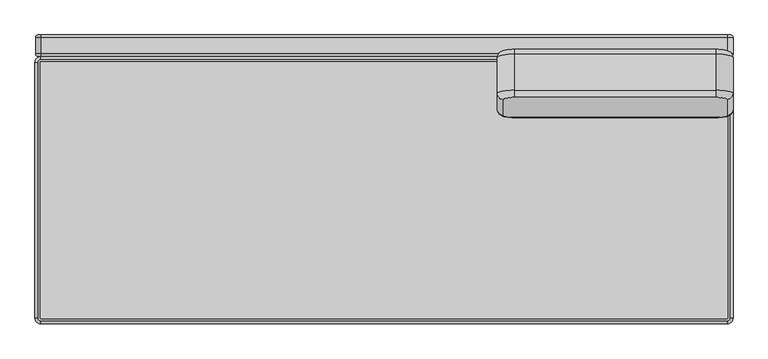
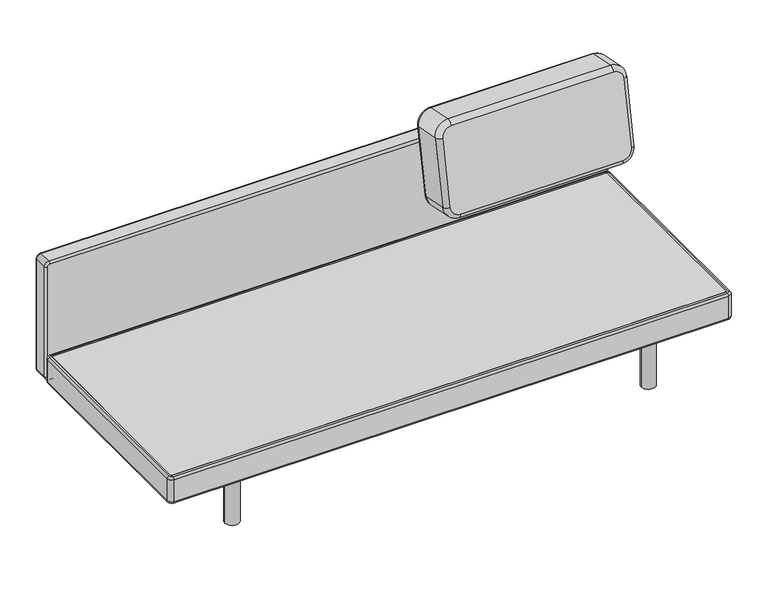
"""IFC4 building model written with IfcOpenShell, lengths in millimetres: furniture geometry, Fredericia - EJ220 Sofa 3 seaters 67 - 2233 : Fredericia - EJ220 Sofa 3 seaters 67 - 2233."""

from ifc_helpers import new_model, si_unit, point, frame, frame_2d, origin, origin_with_axes, place, context, project, spatial, circle_curve, ellipse_curve, trimmed, segment, composite_curve, outline, extrude, source, transform, mapped, element, save
from ifc_brep_helpers import plane_surface, cylinder_surface, revolved_surface, advanced_brep


def furniture_08a45eda(model_context):
    return source(origin(), model_context, "Body", "SolidModel", [
        advanced_brep(
        [(982.2998936, 619.8100699, 478.8361951), (982.2998936, 664.9135782, 710.8736296), (949.6320736, 671.1468921, 742.9412497), (374.3073614, 671.1468921, 742.9412497), (341.6395415, 664.9135782, 710.8736296), (341.6395415, 619.8100699, 478.8361951), (374.3073614, 613.576756, 446.7685751), (949.6320736, 613.576756, 446.7685751), (982.2998936, 802.1658592, 684.1944888), (982.2998936, 757.062351, 452.1570543), (949.6320736, 750.8290371, 420.0894343), (374.3073614, 750.8290371, 420.0894343), (341.6395415, 757.062351, 452.1570543), (341.6395415, 802.1658592, 684.1944888), (374.3073614, 808.3991731, 716.2621088), (949.6320736, 808.3991731, 716.2621088), (999.6320736, 636.819047, 475.5299849), (999.6320736, 740.0486118, 455.4641902), (999.6320736, 785.1521201, 687.5016246), (999.6320736, 681.9225552, 707.5674194), (949.6320736, 691.463005, 756.6487785), (949.6320736, 794.6925699, 736.5829838), (374.3073614, 794.6925699, 736.5829838), (374.3073614, 691.463005, 756.6487785), (324.3073614, 681.9225552, 707.5674194), (324.3073614, 785.1521201, 687.5016246), (324.3073614, 740.0486118, 455.4641902), (324.3073614, 636.819047, 475.5299849), (374.3073614, 627.2785972, 426.4486258), (374.3073614, 730.5081621, 406.382831), (949.6320736, 730.5081621, 406.382831), (949.6320736, 627.2785972, 426.4486258)],
        [
            (0, 1),
            (1, 2, circle_curve(frame((949.6320736, 664.9135782, 710.8736296), z_axis=(0.0, -0.9816271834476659, 0.1908089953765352), x_axis=(1.0, 0.0, 0.0)), 32.6678199)),
            (2, 3),
            (3, 4, circle_curve(frame((374.3073614, 664.9135782, 710.8736296), z_axis=(0.0, -0.9816271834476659, 0.1908089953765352), x_axis=(0.0, 0.1908089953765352, 0.9816271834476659)), 32.6678199)),
            (4, 5),
            (5, 6, circle_curve(frame((374.3073614, 619.8100699, 478.8361951), z_axis=(0.0, -0.9816271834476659, 0.1908089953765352), x_axis=(-1.0, 0.0, 0.0)), 32.6678199)),
            (6, 7),
            (7, 0, circle_curve(frame((949.6320736, 619.8100699, 478.8361951), z_axis=(0.0, -0.9816271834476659, 0.1908089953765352), x_axis=(0.0, -0.1908089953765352, -0.9816271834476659)), 32.6678199)),
            (8, 9),
            (9, 10, circle_curve(frame((949.6320736, 757.062351, 452.1570543), z_axis=(0.0, 0.9816271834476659, -0.1908089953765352), x_axis=(0.0, -0.1908089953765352, -0.9816271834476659)), 32.6678199)),
            (10, 11),
            (11, 12, circle_curve(frame((374.3073614, 757.062351, 452.1570543), z_axis=(0.0, 0.9816271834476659, -0.1908089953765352), x_axis=(-1.0, 0.0, 0.0)), 32.6678199)),
            (12, 13),
            (13, 14, circle_curve(frame((374.3073614, 802.1658592, 684.1944888), z_axis=(0.0, 0.9816271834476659, -0.1908089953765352), x_axis=(0.0, 0.1908089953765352, 0.9816271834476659)), 32.6678199)),
            (14, 15),
            (15, 8, circle_curve(frame((949.6320736, 802.1658592, 684.1944888), z_axis=(0.0, 0.9816271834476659, -0.1908089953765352), x_axis=(1.0, 0.0, 0.0)), 32.6678199)),
            (16, 17),
            (17, 18),
            (18, 19),
            (19, 16),
            (20, 21),
            (21, 22),
            (22, 23),
            (23, 20),
            (24, 25),
            (25, 26),
            (26, 27),
            (27, 24),
            (28, 29),
            (29, 30),
            (30, 31),
            (31, 28),
            (19, 1, circle_curve(frame((982.2998936, 681.9225552, 707.5674194), z_axis=(0.0, -0.1908089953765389, -0.9816271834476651), x_axis=(-1.0, 0.0, 0.0)), 17.3321801)),
            (0, 16, circle_curve(frame((982.2998936, 636.819047, 475.5299849), z_axis=(0.0, 0.1908089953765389, 0.9816271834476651), x_axis=(-1.0, 0.0, 0.0)), 17.3321801)),
            (17, 9, circle_curve(frame((982.2998936, 740.0486118, 455.4641902), z_axis=(0.0, 0.19080899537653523, 0.981627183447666), x_axis=(-1.0, 0.0, 0.0)), 17.3321801)),
            (8, 18, circle_curve(frame((982.2998936, 785.1521201, 687.5016246), z_axis=(0.0, -0.19080899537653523, -0.981627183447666), x_axis=(-1.0, 0.0, 0.0)), 17.3321801)),
            (23, 3, circle_curve(frame((374.3073614, 688.1558691, 739.6350394), z_axis=(1.0, 0.0, 0.0), x_axis=(0.0, -0.19080899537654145, -0.9816271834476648)), 17.3321801)),
            (2, 20, circle_curve(frame((949.6320736, 688.1558691, 739.6350394), z_axis=(-1.0, 0.0, 0.0), x_axis=(0.0, -0.19080899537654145, -0.9816271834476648)), 17.3321801)),
            (21, 15, circle_curve(frame((949.6320736, 791.385434, 719.5692447), z_axis=(-1.0, 0.0, 0.0), x_axis=(0.0, -0.19080899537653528, -0.9816271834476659)), 17.3321801)),
            (14, 22, circle_curve(frame((374.3073614, 791.385434, 719.5692447), z_axis=(1.0, 0.0, 0.0), x_axis=(0.0, -0.19080899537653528, -0.9816271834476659)), 17.3321801)),
            (27, 5, circle_curve(frame((341.6395415, 636.819047, 475.5299849), z_axis=(0.0, 0.19080899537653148, 0.9816271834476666), x_axis=(1.0, 0.0, 0.0)), 17.3321801)),
            (4, 24, circle_curve(frame((341.6395415, 681.9225552, 707.5674194), z_axis=(0.0, -0.19080899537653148, -0.9816271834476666), x_axis=(1.0, 0.0, 0.0)), 17.3321801)),
            (25, 13, circle_curve(frame((341.6395415, 785.1521201, 687.5016246), z_axis=(0.0, -0.1908089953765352, -0.9816271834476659), x_axis=(1.0, 0.0, 0.0)), 17.3321801)),
            (12, 26, circle_curve(frame((341.6395415, 740.0486118, 455.4641902), z_axis=(0.0, 0.1908089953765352, 0.9816271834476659), x_axis=(1.0, 0.0, 0.0)), 17.3321801)),
            (31, 7, circle_curve(frame((949.6320736, 630.585733, 443.4623649), z_axis=(-1.0, 0.0, 0.0), x_axis=(0.0, 0.19080899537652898, 0.9816271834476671)), 17.3321801)),
            (6, 28, circle_curve(frame((374.3073614, 630.585733, 443.4623649), z_axis=(1.0, 0.0, 0.0), x_axis=(0.0, 0.19080899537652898, 0.9816271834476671)), 17.3321801)),
            (29, 11, circle_curve(frame((374.3073614, 733.8152979, 423.3965701), z_axis=(1.0, 0.0, 0.0), x_axis=(0.0, 0.1908089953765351, 0.9816271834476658)), 17.3321801)),
            (10, 30, circle_curve(frame((949.6320736, 733.8152979, 423.3965701), z_axis=(-1.0, 0.0, 0.0), x_axis=(0.0, 0.1908089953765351, 0.9816271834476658)), 17.3321801)),
            (31, 16, circle_curve(frame((949.6320736, 636.819047, 475.5299849), z_axis=(0.0, -0.9816271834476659, 0.1908089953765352), x_axis=(0.0, -0.1908089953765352, -0.9816271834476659)), 50.0)),
            (30, 17, circle_curve(frame((949.6320736, 740.0486118, 455.4641902), z_axis=(0.0, -0.9816271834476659, 0.1908089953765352), x_axis=(0.0, -0.1908089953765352, -0.9816271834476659)), 50.0)),
            (19, 20, circle_curve(frame((949.6320736, 681.9225552, 707.5674194), z_axis=(0.0, -0.9816271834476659, 0.1908089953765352), x_axis=(1.0, 0.0, 0.0)), 50.0)),
            (18, 21, circle_curve(frame((949.6320736, 785.1521201, 687.5016246), z_axis=(0.0, -0.9816271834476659, 0.1908089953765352), x_axis=(1.0, 0.0, 0.0)), 50.0)),
            (23, 24, circle_curve(frame((374.3073614, 681.9225552, 707.5674194), z_axis=(0.0, -0.9816271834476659, 0.1908089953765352), x_axis=(0.0, 0.1908089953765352, 0.9816271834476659)), 50.0)),
            (22, 25, circle_curve(frame((374.3073614, 785.1521201, 687.5016246), z_axis=(0.0, -0.9816271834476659, 0.1908089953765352), x_axis=(0.0, 0.1908089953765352, 0.9816271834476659)), 50.0)),
            (27, 28, circle_curve(frame((374.3073614, 636.819047, 475.5299849), z_axis=(0.0, -0.9816271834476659, 0.1908089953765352), x_axis=(-1.0, 0.0, 0.0)), 50.0)),
            (26, 29, circle_curve(frame((374.3073614, 740.0486118, 455.4641902), z_axis=(0.0, -0.9816271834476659, 0.1908089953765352), x_axis=(-1.0, 0.0, 0.0)), 50.0)),
        ],
        [
            plane_surface(frame((919.6320736, 664.9135782, 710.8736296), z_axis=(0.0, -0.9816271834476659, 0.19080899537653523), x_axis=(0.0, -0.19080899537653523, -0.9816271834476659))),
            plane_surface(frame((919.6320736, 802.1658592, 684.1944888), z_axis=(0.0, 0.9816271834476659, -0.19080899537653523), x_axis=(0.0, 0.19080899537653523, 0.9816271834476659))),
            plane_surface(frame((999.6320736, 740.0486118, 455.4641902), z_axis=(1.0, 0.0, 0.0), x_axis=(0.0, 0.1908089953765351, 0.9816271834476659))),
            plane_surface(frame((949.6320736, 794.6925699, 736.5829838), z_axis=(0.0, 0.1908089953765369, 0.9816271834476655), x_axis=(-1.0, 0.0, 0.0))),
            plane_surface(frame((324.3073614, 785.1521201, 687.5016246), z_axis=(-1.0000000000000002, 0.0, 0.0), x_axis=(0.0, -0.19080899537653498, -0.981627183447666))),
            plane_surface(frame((374.3073614, 730.5081621, 406.382831), z_axis=(0.0, -0.1908089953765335, -0.9816271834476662), x_axis=(1.0, 0.0, 0.0))),
            cylinder_surface(frame((982.2998936, 636.819047, 475.5299849), z_axis=(0.0, -0.1908089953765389, -0.9816271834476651), x_axis=(-1.0, 0.0, 0.0)), 17.3321801),
            cylinder_surface(frame((982.2998936, 740.0486118, 455.4641902), z_axis=(0.0, -0.19080899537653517, -0.9816271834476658), x_axis=(-1.0, 0.0, 0.0)), 17.3321801),
            cylinder_surface(frame((949.6320736, 688.1558691, 739.6350394), z_axis=(1.0000000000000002, 0.0, 0.0), x_axis=(0.0, -0.19080899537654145, -0.9816271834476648)), 17.3321801),
            cylinder_surface(frame((949.6320736, 791.385434, 719.5692447), z_axis=(1.0000000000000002, 0.0, 0.0), x_axis=(0.0, -0.19080899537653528, -0.9816271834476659)), 17.3321801),
            cylinder_surface(frame((341.6395415, 681.9225552, 707.5674194), z_axis=(0.0, 0.19080899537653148, 0.9816271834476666), x_axis=(1.0, 0.0, 0.0)), 17.3321801),
            cylinder_surface(frame((341.6395415, 785.1521201, 687.5016246), z_axis=(0.0, 0.1908089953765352, 0.9816271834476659), x_axis=(1.0, 0.0, 0.0)), 17.3321801),
            cylinder_surface(frame((374.3073614, 630.585733, 443.4623649), z_axis=(-1.0, 0.0, 0.0), x_axis=(0.0, 0.19080899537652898, 0.9816271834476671)), 17.3321801),
            cylinder_surface(frame((374.3073614, 733.8152979, 423.3965701), z_axis=(-1.0, 0.0, 0.0), x_axis=(0.0, 0.1908089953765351, 0.9816271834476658)), 17.3321801),
            revolved_surface(trimmed(ellipse_curve(frame((949.6320736, 630.585733, 443.4623649), z_axis=(-1.0000000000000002, 0.0, 0.0), x_axis=(0.0, 0.19080899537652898, 0.9816271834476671)), 17.3321801, 17.3321801), [point((949.6320736, 627.2785972, 426.4486258))], [point((949.6320736, 613.5719939, 446.7695007))], True, "CARTESIAN"), (949.6320736, 801.1332803, 443.5905334), (0.0, -0.9816271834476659, 0.1908089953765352)),
            cylinder_surface(frame((949.6320736, 801.1332803, 443.5905334), z_axis=(0.0, -0.9816271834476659, 0.1908089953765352), x_axis=(0.0, -0.1908089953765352, -0.9816271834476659)), 50.0),
            revolved_surface(trimmed(ellipse_curve(frame((949.6320736, 733.8152979, 423.3965701), z_axis=(-1.0000000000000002, 0.0, 0.0), x_axis=(0.0, 0.19080899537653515, 0.9816271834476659)), 17.3321801, 17.3321801), [point((949.6320736, 750.8290371, 420.0894343))], [point((949.6320736, 730.5081621, 406.382831))], True, "CARTESIAN"), (949.6320736, 801.1332803, 443.5905334), (0.0, -0.9816271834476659, 0.1908089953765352)),
            revolved_surface(trimmed(ellipse_curve(frame((982.2998936, 681.9225552, 707.5674194), z_axis=(0.0, -0.19080899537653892, -0.9816271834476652), x_axis=(-1.0, 0.0, 0.0)), 17.3321801, 17.3321801), [point((999.6320736, 681.9225552, 707.5674194))], [point((982.2998936, 664.9088161, 710.8745552))], True, "CARTESIAN"), (949.6320736, 846.2367886, 675.6279679), (0.0, -0.9816271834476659, 0.1908089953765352)),
            cylinder_surface(frame((949.6320736, 846.2367886, 675.6279679), z_axis=(0.0, -0.9816271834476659, 0.1908089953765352), x_axis=(1.0, 0.0, 0.0)), 50.0),
            revolved_surface(trimmed(ellipse_curve(frame((982.2998936, 785.1521201, 687.5016246), z_axis=(0.0, -0.1908089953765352, -0.9816271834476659), x_axis=(-1.0, 0.0, 0.0)), 17.3321801, 17.3321801), [point((982.2998936, 802.1658592, 684.1944888))], [point((999.6320736, 785.1521201, 687.5016246))], True, "CARTESIAN"), (949.6320736, 846.2367886, 675.6279679), (0.0, -0.9816271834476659, 0.1908089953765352)),
            revolved_surface(trimmed(ellipse_curve(frame((374.3073614, 688.1558691, 739.6350394), z_axis=(1.0000000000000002, 0.0, 0.0), x_axis=(0.0, -0.19080899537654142, -0.9816271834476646)), 17.3321801, 17.3321801), [point((374.3073614, 691.463005, 756.6487785))], [point((374.3073614, 671.14213, 742.9421753))], True, "CARTESIAN"), (374.3073614, 846.2367886, 675.6279679), (0.0, -0.9816271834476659, 0.1908089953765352)),
            cylinder_surface(frame((374.3073614, 846.2367886, 675.6279679), z_axis=(0.0, -0.9816271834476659, 0.1908089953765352), x_axis=(0.0, 0.1908089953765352, 0.9816271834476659)), 50.0),
            revolved_surface(trimmed(ellipse_curve(frame((374.3073614, 791.385434, 719.5692447), z_axis=(1.0000000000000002, 0.0, 0.0), x_axis=(0.0, -0.19080899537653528, -0.9816271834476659)), 17.3321801, 17.3321801), [point((374.3073614, 808.3991731, 716.2621088))], [point((374.3073614, 794.6925699, 736.5829838))], True, "CARTESIAN"), (374.3073614, 846.2367886, 675.6279679), (0.0, -0.9816271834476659, 0.1908089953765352)),
            revolved_surface(trimmed(ellipse_curve(frame((341.6395415, 636.819047, 475.5299849), z_axis=(0.0, 0.19080899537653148, 0.9816271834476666), x_axis=(1.0, 0.0, 0.0)), 17.3321801, 17.3321801), [point((324.3073614, 636.819047, 475.5299849))], [point((341.6395415, 619.8053078, 478.8371208))], True, "CARTESIAN"), (374.3073614, 801.1332803, 443.5905334), (0.0, -0.9816271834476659, 0.1908089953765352)),
            cylinder_surface(frame((374.3073614, 801.1332803, 443.5905334), z_axis=(0.0, -0.9816271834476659, 0.1908089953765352), x_axis=(-1.0, 0.0, 0.0)), 50.0),
            revolved_surface(trimmed(ellipse_curve(frame((341.6395415, 740.0486118, 455.4641902), z_axis=(0.0, 0.1908089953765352, 0.9816271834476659), x_axis=(1.0, 0.0, 0.0)), 17.3321801, 17.3321801), [point((341.6395415, 757.062351, 452.1570543))], [point((324.3073614, 740.0486118, 455.4641902))], True, "CARTESIAN"), (374.3073614, 801.1332803, 443.5905334), (0.0, -0.9816271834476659, 0.1908089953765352)),
        ],
        [
            (0, [[1, 2, 3, 4, 5, 6, 7, 8]]),
            (1, [[9, 10, 11, 12, 13, 14, 15, 16]]),
            (2, [[17, 18, 19, 20]]),
            (3, [[21, 22, 23, 24]]),
            (4, [[25, 26, 27, 28]]),
            (5, [[29, 30, 31, 32]]),
            (6, [[-20, 33, -1, 34]]),
            (7, [[-18, 35, -9, 36]]),
            (8, [[-24, 37, -3, 38]]),
            (9, [[-22, 39, -15, 40]]),
            (10, [[-28, 41, -5, 42]]),
            (11, [[-26, 43, -13, 44]]),
            (12, [[-32, 45, -7, 46]]),
            (13, [[-30, 47, -11, 48]]),
            (14, [[-34, -8, -45, 49]]),
            (15, [[-17, -49, -31, 50]]),
            (16, [[-35, -50, -48, -10]]),
            (17, [[-33, 51, -38, -2]]),
            (18, [[-19, 52, -21, -51]]),
            (19, [[-36, -16, -39, -52]]),
            (20, [[-37, 53, -42, -4]]),
            (21, [[-23, 54, -25, -53]]),
            (22, [[-40, -14, -43, -54]]),
            (23, [[-41, 55, -46, -6]]),
            (24, [[-27, 56, -29, -55]]),
            (25, [[-44, -12, -47, -56]]),
        ],
    ),
        extrude(outline(composite_curve([segment(trimmed(circle_curve(frame_2d((-737.400766, 93.2307907)), 25.0), [point((-712.400766, 93.2307907))], [point((-762.400766, 93.2307907))], False, "CARTESIAN"), True, "CONTINUOUS"), segment(trimmed(circle_curve(frame_2d((-737.400766, 93.2307907)), 25.0), [point((-762.400766, 93.2307907))], [point((-712.400766, 93.2307907))], False, "CARTESIAN"), True, "CONTINUOUS")], self_intersect=False)), origin_with_axes(), (0.0, 0.0, 1.0), 192.8),
        extrude(outline(composite_curve([segment(trimmed(circle_curve(frame_2d((-734.6355201, 735.5757348)), 25.0), [point((-709.6355201, 735.5757348))], [point((-759.6355201, 735.5757348))], False, "CARTESIAN"), True, "CONTINUOUS"), segment(trimmed(circle_curve(frame_2d((-734.6355201, 735.5757348)), 25.0), [point((-759.6355201, 735.5757348))], [point((-709.6355201, 735.5757348))], False, "CARTESIAN"), True, "CONTINUOUS")], self_intersect=False)), origin_with_axes(), (0.0, 0.0, 1.0), 192.8),
        extrude(outline(composite_curve([segment(trimmed(circle_curve(frame_2d((735.108025, 735.5757348)), 25.0), [point((760.108025, 735.5757348))], [point((710.108025, 735.5757348))], False, "CARTESIAN"), True, "CONTINUOUS"), segment(trimmed(circle_curve(frame_2d((735.108025, 735.5757348)), 25.0), [point((710.108025, 735.5757348))], [point((760.108025, 735.5757348))], False, "CARTESIAN"), True, "CONTINUOUS")], self_intersect=False)), origin_with_axes(), (0.0, 0.0, 1.0), 192.8),
        extrude(outline(composite_curve([segment(trimmed(circle_curve(frame_2d((735.108025, 86.3098054)), 25.0), [point((760.108025, 86.3098054))], [point((710.108025, 86.3098054))], False, "CARTESIAN"), True, "CONTINUOUS"), segment(trimmed(circle_curve(frame_2d((735.108025, 86.3098054)), 25.0), [point((710.108025, 86.3098054))], [point((760.108025, 86.3098054))], False, "CARTESIAN"), True, "CONTINUOUS")], self_intersect=False)), origin_with_axes(), (0.0, 0.0, 1.0), 192.8),
        advanced_brep(
        [(-990.361679, 788.5182574, 617.6458587), (-990.361679, 788.5182574, 207.2714708), (-980.761679, 788.5182574, 197.6714708), (982.5320736, 788.5182574, 197.6714708), (992.1320736, 788.5182574, 207.2714708), (992.1320736, 788.5182574, 617.6458587), (982.5320736, 788.5182574, 627.2458587), (-980.761679, 788.5182574, 627.2458587), (-990.361679, 850.0101989, 207.2714708), (-990.361679, 850.0101989, 617.6458587), (-980.761679, 850.0101989, 627.2458587), (982.5320736, 850.0101989, 627.2458587), (992.1320736, 850.0101989, 617.6458587), (992.1320736, 850.0101989, 207.2714708), (982.5320736, 850.0101989, 197.6714708), (-980.761679, 850.0101989, 197.6714708), (-997.861679, 796.0182574, 207.2714708), (-997.861679, 796.0182574, 617.6458587), (-997.861679, 842.5101989, 617.6458587), (-997.861679, 842.5101989, 207.2714708), (-980.761679, 796.0182574, 634.7458587), (982.5320736, 796.0182574, 634.7458587), (982.5320736, 842.5101989, 634.7458587), (-980.761679, 842.5101989, 634.7458587), (999.6320736, 796.0182574, 617.6458587), (999.6320736, 796.0182574, 207.2714708), (999.6320736, 842.5101989, 207.2714708), (999.6320736, 842.5101989, 617.6458587), (982.5320736, 796.0182574, 190.1714708), (-980.761679, 796.0182574, 190.1714708), (-980.761679, 842.5101989, 190.1714708), (982.5320736, 842.5101989, 190.1714708)],
        [
            (0, 1),
            (1, 2, circle_curve(frame((-980.761679, 788.5182574, 207.2714708), z_axis=(0.0, -1.0, 0.0), x_axis=(0.0, 0.0, -1.0)), 9.6)),
            (2, 3),
            (3, 4, circle_curve(frame((982.5320736, 788.5182574, 207.2714708), z_axis=(0.0, -1.0, 0.0), x_axis=(1.0, 0.0, 0.0)), 9.6)),
            (4, 5),
            (5, 6, circle_curve(frame((982.5320736, 788.5182574, 617.6458587), z_axis=(0.0, -1.0, 0.0), x_axis=(0.0, 0.0, 1.0)), 9.6)),
            (6, 7),
            (7, 0, circle_curve(frame((-980.761679, 788.5182574, 617.6458587), z_axis=(0.0, -1.0, 0.0), x_axis=(-1.0, 0.0, 0.0)), 9.6)),
            (8, 9),
            (9, 10, circle_curve(frame((-980.761679, 850.0101989, 617.6458587), z_axis=(0.0, 1.0, 0.0), x_axis=(-1.0, 0.0, 0.0)), 9.6)),
            (10, 11),
            (11, 12, circle_curve(frame((982.5320736, 850.0101989, 617.6458587), z_axis=(0.0, 1.0, 0.0), x_axis=(0.0, 0.0, 1.0)), 9.6)),
            (12, 13),
            (13, 14, circle_curve(frame((982.5320736, 850.0101989, 207.2714708), z_axis=(0.0, 1.0, 0.0), x_axis=(1.0, 0.0, 0.0)), 9.6)),
            (14, 15),
            (15, 8, circle_curve(frame((-980.761679, 850.0101989, 207.2714708), z_axis=(0.0, 1.0, 0.0), x_axis=(0.0, 0.0, -1.0)), 9.6)),
            (16, 1, circle_curve(frame((-990.361679, 796.0182574, 207.2714708), z_axis=(0.0, 0.0, 1.0), x_axis=(1.0, 0.0, 0.0)), 7.5)),
            (0, 17, circle_curve(frame((-990.361679, 796.0182574, 617.6458587), z_axis=(0.0, 0.0, -1.0), x_axis=(1.0, 0.0, 0.0)), 7.5)),
            (17, 16),
            (17, 18),
            (18, 19),
            (19, 16),
            (18, 9, circle_curve(frame((-990.361679, 842.5101989, 617.6458587), z_axis=(0.0, 0.0, -1.0), x_axis=(1.0, 0.0, 0.0)), 7.5)),
            (8, 19, circle_curve(frame((-990.361679, 842.5101989, 207.2714708), z_axis=(0.0, 0.0, 1.0), x_axis=(1.0, 0.0, 0.0)), 7.5)),
            (20, 7, circle_curve(frame((-980.761679, 796.0182574, 627.2458587), z_axis=(1.0, 0.0, 0.0), x_axis=(0.0, 0.0, -1.0)), 7.5)),
            (6, 21, circle_curve(frame((982.5320736, 796.0182574, 627.2458587), z_axis=(-1.0, 0.0, 0.0), x_axis=(0.0, 0.0, -1.0)), 7.5)),
            (21, 20),
            (21, 22),
            (22, 23),
            (23, 20),
            (22, 11, circle_curve(frame((982.5320736, 842.5101989, 627.2458587), z_axis=(-1.0, 0.0, 0.0), x_axis=(0.0, 0.0, -1.0)), 7.5)),
            (10, 23, circle_curve(frame((-980.761679, 842.5101989, 627.2458587), z_axis=(1.0, 0.0, 0.0), x_axis=(0.0, 0.0, -1.0)), 7.5)),
            (24, 5, circle_curve(frame((992.1320736, 796.0182574, 617.6458587), z_axis=(0.0, 0.0, -1.0), x_axis=(-1.0, 0.0, 0.0)), 7.5)),
            (4, 25, circle_curve(frame((992.1320736, 796.0182574, 207.2714708), z_axis=(0.0, 0.0, 1.0), x_axis=(-1.0, 0.0, 0.0)), 7.5)),
            (25, 24),
            (25, 26),
            (26, 27),
            (27, 24),
            (26, 13, circle_curve(frame((992.1320736, 842.5101989, 207.2714708), z_axis=(0.0, 0.0, 1.0), x_axis=(-1.0, 0.0, 0.0)), 7.5)),
            (12, 27, circle_curve(frame((992.1320736, 842.5101989, 617.6458587), z_axis=(0.0, 0.0, -1.0), x_axis=(-1.0, 0.0, 0.0)), 7.5)),
            (28, 3, circle_curve(frame((982.5320736, 796.0182574, 197.6714708), z_axis=(-1.0, 0.0, 0.0), x_axis=(0.0, 0.0, 1.0)), 7.5)),
            (2, 29, circle_curve(frame((-980.761679, 796.0182574, 197.6714708), z_axis=(1.0, 0.0, 0.0), x_axis=(0.0, 0.0, 1.0)), 7.5)),
            (29, 28),
            (29, 30),
            (30, 31),
            (31, 28),
            (30, 15, circle_curve(frame((-980.761679, 842.5101989, 197.6714708), z_axis=(1.0, 0.0, 0.0), x_axis=(0.0, 0.0, 1.0)), 7.5)),
            (14, 31, circle_curve(frame((982.5320736, 842.5101989, 197.6714708), z_axis=(-1.0, 0.0, 0.0), x_axis=(0.0, 0.0, 1.0)), 7.5)),
            (16, 29, circle_curve(frame((-980.761679, 796.0182574, 207.2714708), z_axis=(0.0, -1.0, 0.0), x_axis=(0.0, 0.0, -1.0)), 17.1)),
            (19, 30, circle_curve(frame((-980.761679, 842.5101989, 207.2714708), z_axis=(0.0, -1.0, 0.0), x_axis=(0.0, 0.0, -1.0)), 17.1)),
            (20, 17, circle_curve(frame((-980.761679, 796.0182574, 617.6458587), z_axis=(0.0, -1.0, 0.0), x_axis=(-1.0, 0.0, 0.0)), 17.1)),
            (23, 18, circle_curve(frame((-980.761679, 842.5101989, 617.6458587), z_axis=(0.0, -1.0, 0.0), x_axis=(-1.0, 0.0, 0.0)), 17.1)),
            (24, 21, circle_curve(frame((982.5320736, 796.0182574, 617.6458587), z_axis=(0.0, -1.0, 0.0), x_axis=(0.0, 0.0, 1.0)), 17.1)),
            (27, 22, circle_curve(frame((982.5320736, 842.5101989, 617.6458587), z_axis=(0.0, -1.0, 0.0), x_axis=(0.0, 0.0, 1.0)), 17.1)),
            (28, 25, circle_curve(frame((982.5320736, 796.0182574, 207.2714708), z_axis=(0.0, -1.0, 0.0), x_axis=(1.0, 0.0, 0.0)), 17.1)),
            (31, 26, circle_curve(frame((982.5320736, 842.5101989, 207.2714708), z_axis=(0.0, -1.0, 0.0), x_axis=(1.0, 0.0, 0.0)), 17.1)),
        ],
        [
            plane_surface(frame((401.3694773, 788.5182574, 622.3295429), z_axis=(0.0, -1.0, 0.0), x_axis=(-1.0, 0.0, 0.0))),
            plane_surface(frame((401.3694773, 850.0101989, 622.3295429), z_axis=(0.0, 1.0, 0.0), x_axis=(1.0, 0.0, 0.0))),
            cylinder_surface(frame((-990.361679, 796.0182574, 207.2714708), z_axis=(0.0, 0.0, -1.0), x_axis=(1.0, 0.0, 0.0)), 7.5),
            plane_surface(frame((-997.861679, 796.0182574, 207.2714708), z_axis=(-1.0, 0.0, 0.0), x_axis=(0.0, 0.0, 1.0))),
            cylinder_surface(frame((-990.361679, 842.5101989, 207.2714708), z_axis=(0.0, 0.0, -1.0), x_axis=(1.0, 0.0, 0.0)), 7.5),
            cylinder_surface(frame((-980.761679, 796.0182574, 627.2458587), z_axis=(-1.0, 0.0, 0.0), x_axis=(0.0, 0.0, -1.0)), 7.5),
            plane_surface(frame((-980.761679, 796.0182574, 634.7458587), z_axis=(0.0, 0.0, 1.0), x_axis=(1.0, 0.0, 0.0))),
            cylinder_surface(frame((-980.761679, 842.5101989, 627.2458587), z_axis=(-1.0, 0.0, 0.0), x_axis=(0.0, 0.0, -1.0)), 7.5),
            cylinder_surface(frame((992.1320736, 796.0182574, 617.6458587), z_axis=(0.0, 0.0, 1.0), x_axis=(-1.0, 0.0, 0.0)), 7.5),
            plane_surface(frame((999.6320736, 796.0182574, 617.6458587), z_axis=(1.0, 0.0, 0.0), x_axis=(0.0, 0.0, -1.0))),
            cylinder_surface(frame((992.1320736, 842.5101989, 617.6458587), z_axis=(0.0, 0.0, 1.0), x_axis=(-1.0, 0.0, 0.0)), 7.5),
            cylinder_surface(frame((982.5320736, 796.0182574, 197.6714708), z_axis=(1.0, 0.0, 0.0), x_axis=(0.0, 0.0, 1.0)), 7.5),
            plane_surface(frame((982.5320736, 796.0182574, 190.1714708), z_axis=(0.0, 0.0, -1.0), x_axis=(-1.0, 0.0, 0.0))),
            cylinder_surface(frame((982.5320736, 842.5101989, 197.6714708), z_axis=(1.0, 0.0, 0.0), x_axis=(0.0, 0.0, 1.0)), 7.5),
            revolved_surface(trimmed(ellipse_curve(frame((-980.761679, 796.0182574, 197.6714708), z_axis=(1.0, 0.0, 0.0), x_axis=(0.0, 0.0, 1.0)), 7.5, 7.5), [point((-980.761679, 788.5182574, 197.6714708))], [point((-980.761679, 796.0182574, 190.1714708))], True, "CARTESIAN"), (-980.761679, 850.0101989, 207.2714708), (0.0, 1.0, 0.0)),
            cylinder_surface(frame((-980.761679, 850.0101989, 207.2714708), z_axis=(0.0, 1.0, 0.0), x_axis=(0.0, 0.0, -1.0)), 17.1),
            revolved_surface(trimmed(ellipse_curve(frame((-980.761679, 842.5101989, 197.6714708), z_axis=(1.0, 0.0, 0.0), x_axis=(0.0, 0.0, 1.0)), 7.5, 7.5), [point((-980.761679, 842.5101989, 190.1714708))], [point((-980.761679, 850.0101989, 197.6714708))], True, "CARTESIAN"), (-980.761679, 850.0101989, 207.2714708), (0.0, 1.0, 0.0)),
            revolved_surface(trimmed(ellipse_curve(frame((-990.361679, 796.0182574, 617.6458587), z_axis=(0.0, 0.0, -1.0), x_axis=(1.0, 0.0, 0.0)), 7.5, 7.5), [point((-990.361679, 788.5182574, 617.6458587))], [point((-997.861679, 796.0182574, 617.6458587))], True, "CARTESIAN"), (-980.761679, 850.0101989, 617.6458587), (0.0, 1.0, 0.0)),
            cylinder_surface(frame((-980.761679, 850.0101989, 617.6458587), z_axis=(0.0, 1.0, 0.0), x_axis=(-1.0, 0.0, 0.0)), 17.1),
            revolved_surface(trimmed(ellipse_curve(frame((-990.361679, 842.5101989, 617.6458587), z_axis=(0.0, 0.0, -1.0), x_axis=(1.0, 0.0, 0.0)), 7.5, 7.5), [point((-997.861679, 842.5101989, 617.6458587))], [point((-990.361679, 850.0101989, 617.6458587))], True, "CARTESIAN"), (-980.761679, 850.0101989, 617.6458587), (0.0, 1.0, 0.0)),
            revolved_surface(trimmed(ellipse_curve(frame((982.5320736, 796.0182574, 627.2458587), z_axis=(-1.0, 0.0, 0.0), x_axis=(0.0, 0.0, -1.0)), 7.5, 7.5), [point((982.5320736, 788.5182574, 627.2458587))], [point((982.5320736, 796.0182574, 634.7458587))], True, "CARTESIAN"), (982.5320736, 850.0101989, 617.6458587), (0.0, 1.0, 0.0)),
            cylinder_surface(frame((982.5320736, 850.0101989, 617.6458587), z_axis=(0.0, 1.0, 0.0), x_axis=(0.0, 0.0, 1.0)), 17.1),
            revolved_surface(trimmed(ellipse_curve(frame((982.5320736, 842.5101989, 627.2458587), z_axis=(-1.0, 0.0, 0.0), x_axis=(0.0, 0.0, -1.0)), 7.5, 7.5), [point((982.5320736, 842.5101989, 634.7458587))], [point((982.5320736, 850.0101989, 627.2458587))], True, "CARTESIAN"), (982.5320736, 850.0101989, 617.6458587), (0.0, 1.0, 0.0)),
            revolved_surface(trimmed(ellipse_curve(frame((992.1320736, 796.0182574, 207.2714708), z_axis=(0.0, 0.0, 1.0), x_axis=(-1.0, 0.0, 0.0)), 7.5, 7.5), [point((992.1320736, 788.5182574, 207.2714708))], [point((999.6320736, 796.0182574, 207.2714708))], True, "CARTESIAN"), (982.5320736, 850.0101989, 207.2714708), (0.0, 1.0, 0.0)),
            cylinder_surface(frame((982.5320736, 850.0101989, 207.2714708), z_axis=(0.0, 1.0, 0.0), x_axis=(1.0, 0.0, 0.0)), 17.1),
            revolved_surface(trimmed(ellipse_curve(frame((992.1320736, 842.5101989, 207.2714708), z_axis=(0.0, 0.0, 1.0), x_axis=(-1.0, 0.0, 0.0)), 7.5, 7.5), [point((999.6320736, 842.5101989, 207.2714708))], [point((992.1320736, 850.0101989, 207.2714708))], True, "CARTESIAN"), (982.5320736, 850.0101989, 207.2714708), (0.0, 1.0, 0.0)),
        ],
        [
            (0, [[1, 2, 3, 4, 5, 6, 7, 8]]),
            (1, [[9, 10, 11, 12, 13, 14, 15, 16]]),
            (2, [[17, -1, 18, 19]]),
            (3, [[-19, 20, 21, 22]]),
            (4, [[-21, 23, -9, 24]]),
            (5, [[25, -7, 26, 27]]),
            (6, [[-27, 28, 29, 30]]),
            (7, [[-29, 31, -11, 32]]),
            (8, [[33, -5, 34, 35]]),
            (9, [[-35, 36, 37, 38]]),
            (10, [[-37, 39, -13, 40]]),
            (11, [[41, -3, 42, 43]]),
            (12, [[-43, 44, 45, 46]]),
            (13, [[-45, 47, -15, 48]]),
            (14, [[-17, 49, -42, -2]]),
            (15, [[-22, 50, -44, -49]]),
            (16, [[-24, -16, -47, -50]]),
            (17, [[-18, -8, -25, 51]]),
            (18, [[-20, -51, -30, 52]]),
            (19, [[-23, -52, -32, -10]]),
            (20, [[-26, -6, -33, 53]]),
            (21, [[-28, -53, -38, 54]]),
            (22, [[-31, -54, -40, -12]]),
            (23, [[-34, -4, -41, 55]]),
            (24, [[-36, -55, -46, 56]]),
            (25, [[-39, -56, -48, -14]]),
        ],
    ),
        advanced_brep(
        [(-992.1320736, 39.8, 192.7880862), (-992.1320736, 770.9641303, 192.7880862), (-982.5320736, 780.5641303, 192.7880862), (982.5320736, 780.5641303, 192.7880862), (992.1320736, 770.9641303, 192.7880862), (992.1320736, 39.8, 192.7880862), (982.5320736, 30.2, 192.7880862), (-982.5320736, 30.2, 192.7880862), (-982.5320736, 37.7, 290.0), (982.5320736, 37.7, 290.0), (984.6320736, 39.8, 290.0), (984.6320736, 770.9641303, 290.0), (982.5320736, 773.0641303, 290.0), (-982.5320736, 773.0641303, 290.0), (-984.6320736, 770.9641303, 290.0), (-984.6320736, 39.8, 290.0), (-982.5320736, 37.7, 289.8211901), (982.5320736, 37.7, 289.8211901), (984.6320736, 39.8, 289.8211901), (984.6320736, 770.9641303, 289.8211901), (982.5320736, 773.0641303, 289.8211901), (-982.5320736, 773.0641303, 289.8211901), (-984.6320736, 770.9641303, 289.8211901), (-984.6320736, 39.8, 289.8211901), (-999.6320736, 770.9641303, 200.2880862), (-999.6320736, 39.8, 200.2880862), (-999.6320736, 39.8, 282.3211901), (-999.6320736, 770.9641303, 282.3211901), (-992.1320736, 39.8, 289.8211901), (-992.1320736, 770.9641303, 289.8211901), (-982.5320736, 22.7, 200.2880862), (982.5320736, 22.7, 200.2880862), (982.5320736, 22.7, 282.3211901), (-982.5320736, 22.7, 282.3211901), (982.5320736, 30.2, 289.8211901), (-982.5320736, 30.2, 289.8211901), (999.6320736, 39.8, 200.2880862), (999.6320736, 770.9641303, 200.2880862), (999.6320736, 770.9641303, 282.3211901), (999.6320736, 39.8, 282.3211901), (992.1320736, 770.9641303, 289.8211901), (992.1320736, 39.8, 289.8211901), (982.5320736, 788.0641303, 200.2880862), (-982.5320736, 788.0641303, 200.2880862), (-982.5320736, 788.0641303, 282.3211901), (982.5320736, 788.0641303, 282.3211901), (-982.5320736, 780.5641303, 289.8211901), (982.5320736, 780.5641303, 289.8211901)],
        [
            (0, 1),
            (1, 2, circle_curve(frame((-982.5320736, 770.9641303, 192.7880862), z_axis=(0.0, 0.0, -1.0), x_axis=(0.0, 1.0, 0.0)), 9.6)),
            (2, 3),
            (3, 4, circle_curve(frame((982.5320736, 770.9641303, 192.7880862), z_axis=(0.0, 0.0, -1.0), x_axis=(1.0, 0.0, 0.0)), 9.6)),
            (4, 5),
            (5, 6, circle_curve(frame((982.5320736, 39.8, 192.7880862), z_axis=(0.0, 0.0, -1.0), x_axis=(0.0, -1.0, 0.0)), 9.6)),
            (6, 7),
            (7, 0, circle_curve(frame((-982.5320736, 39.8, 192.7880862), z_axis=(0.0, 0.0, -1.0), x_axis=(-1.0, 0.0, 0.0)), 9.6)),
            (8, 9),
            (9, 10, circle_curve(frame((982.5320736, 39.8, 290.0), z_axis=(0.0, 0.0, 1.0), x_axis=(0.0, 1.0, 0.0)), 2.1)),
            (10, 11),
            (11, 12, circle_curve(frame((982.5320736, 770.9641303, 290.0), z_axis=(0.0, 0.0, 1.0), x_axis=(0.0, 1.0, 0.0)), 2.1)),
            (12, 13),
            (13, 14, circle_curve(frame((-982.5320736, 770.9641303, 290.0), z_axis=(0.0, 0.0, 1.0), x_axis=(0.0, 1.0, 0.0)), 2.1)),
            (14, 15),
            (15, 8, circle_curve(frame((-982.5320736, 39.8, 290.0), z_axis=(0.0, 0.0, 1.0), x_axis=(0.0, 1.0, 0.0)), 2.1)),
            (8, 16),
            (16, 17),
            (17, 9),
            (17, 18, circle_curve(frame((982.5320736, 39.8, 289.8211901), z_axis=(0.0, 0.0, 1.0), x_axis=(0.0, 1.0, 0.0)), 2.1)),
            (18, 10),
            (18, 19),
            (19, 11),
            (19, 20, circle_curve(frame((982.5320736, 770.9641303, 289.8211901), z_axis=(0.0, 0.0, 1.0), x_axis=(0.0, 1.0, 0.0)), 2.1)),
            (20, 12),
            (20, 21),
            (21, 13),
            (21, 22, circle_curve(frame((-982.5320736, 770.9641303, 289.8211901), z_axis=(0.0, 0.0, 1.0), x_axis=(0.0, 1.0, 0.0)), 2.1)),
            (22, 14),
            (22, 23),
            (23, 15),
            (23, 16, circle_curve(frame((-982.5320736, 39.8, 289.8211901), z_axis=(0.0, 0.0, 1.0), x_axis=(0.0, 1.0, 0.0)), 2.1)),
            (24, 1, circle_curve(frame((-992.1320736, 770.9641303, 200.2880862), z_axis=(0.0, -1.0, 0.0), x_axis=(1.0, 0.0, 0.0)), 7.5)),
            (0, 25, circle_curve(frame((-992.1320736, 39.8, 200.2880862), z_axis=(0.0, 1.0, 0.0), x_axis=(1.0, 0.0, 0.0)), 7.5)),
            (25, 24),
            (25, 26),
            (26, 27),
            (27, 24),
            (26, 28, circle_curve(frame((-992.1320736, 39.8, 282.3211901), z_axis=(0.0, 1.0, 0.0), x_axis=(1.0, 0.0, 0.0)), 7.5)),
            (28, 29),
            (29, 27, circle_curve(frame((-992.1320736, 770.9641303, 282.3211901), z_axis=(0.0, -1.0, 0.0), x_axis=(1.0, 0.0, 0.0)), 7.5)),
            (30, 7, circle_curve(frame((-982.5320736, 30.2, 200.2880862), z_axis=(1.0, 0.0, 0.0), x_axis=(0.0, 1.0, 0.0)), 7.5)),
            (6, 31, circle_curve(frame((982.5320736, 30.2, 200.2880862), z_axis=(-1.0, 0.0, 0.0), x_axis=(0.0, 1.0, 0.0)), 7.5)),
            (31, 30),
            (31, 32),
            (32, 33),
            (33, 30),
            (32, 34, circle_curve(frame((982.5320736, 30.2, 282.3211901), z_axis=(-1.0, 0.0, 0.0), x_axis=(0.0, 1.0, 0.0)), 7.5)),
            (34, 35),
            (35, 33, circle_curve(frame((-982.5320736, 30.2, 282.3211901), z_axis=(1.0, 0.0, 0.0), x_axis=(0.0, 1.0, 0.0)), 7.5)),
            (36, 5, circle_curve(frame((992.1320736, 39.8, 200.2880862), z_axis=(0.0, 1.0, 0.0), x_axis=(-1.0, 0.0, 0.0)), 7.5)),
            (4, 37, circle_curve(frame((992.1320736, 770.9641303, 200.2880862), z_axis=(0.0, -1.0, 0.0), x_axis=(-1.0, 0.0, 0.0)), 7.5)),
            (37, 36),
            (37, 38),
            (38, 39),
            (39, 36),
            (38, 40, circle_curve(frame((992.1320736, 770.9641303, 282.3211901), z_axis=(0.0, -1.0, 0.0), x_axis=(-1.0, 0.0, 0.0)), 7.5)),
            (40, 41),
            (41, 39, circle_curve(frame((992.1320736, 39.8, 282.3211901), z_axis=(0.0, 1.0, 0.0), x_axis=(-1.0, 0.0, 0.0)), 7.5)),
            (42, 3, circle_curve(frame((982.5320736, 780.5641303, 200.2880862), z_axis=(-1.0, 0.0, 0.0), x_axis=(0.0, -1.0, 0.0)), 7.5)),
            (2, 43, circle_curve(frame((-982.5320736, 780.5641303, 200.2880862), z_axis=(1.0, 0.0, 0.0), x_axis=(0.0, -1.0, 0.0)), 7.5)),
            (43, 42),
            (43, 44),
            (44, 45),
            (45, 42),
            (44, 46, circle_curve(frame((-982.5320736, 780.5641303, 282.3211901), z_axis=(1.0, 0.0, 0.0), x_axis=(0.0, -1.0, 0.0)), 7.5)),
            (46, 47),
            (47, 45, circle_curve(frame((982.5320736, 780.5641303, 282.3211901), z_axis=(-1.0, 0.0, 0.0), x_axis=(0.0, -1.0, 0.0)), 7.5)),
            (24, 43, circle_curve(frame((-982.5320736, 770.9641303, 200.2880862), z_axis=(0.0, 0.0, -1.0), x_axis=(0.0, 1.0, 0.0)), 17.1)),
            (27, 44, circle_curve(frame((-982.5320736, 770.9641303, 282.3211901), z_axis=(0.0, 0.0, -1.0), x_axis=(0.0, 1.0, 0.0)), 17.1)),
            (29, 46, circle_curve(frame((-982.5320736, 770.9641303, 289.8211901), z_axis=(0.0, 0.0, -1.0), x_axis=(0.0, 1.0, 0.0)), 9.6)),
            (30, 25, circle_curve(frame((-982.5320736, 39.8, 200.2880862), z_axis=(0.0, 0.0, -1.0), x_axis=(-1.0, 0.0, 0.0)), 17.1)),
            (33, 26, circle_curve(frame((-982.5320736, 39.8, 282.3211901), z_axis=(0.0, 0.0, -1.0), x_axis=(-1.0, 0.0, 0.0)), 17.1)),
            (35, 28, circle_curve(frame((-982.5320736, 39.8, 289.8211901), z_axis=(0.0, 0.0, -1.0), x_axis=(-1.0, 0.0, 0.0)), 9.6)),
            (36, 31, circle_curve(frame((982.5320736, 39.8, 200.2880862), z_axis=(0.0, 0.0, -1.0), x_axis=(0.0, -1.0, 0.0)), 17.1)),
            (39, 32, circle_curve(frame((982.5320736, 39.8, 282.3211901), z_axis=(0.0, 0.0, -1.0), x_axis=(0.0, -1.0, 0.0)), 17.1)),
            (41, 34, circle_curve(frame((982.5320736, 39.8, 289.8211901), z_axis=(0.0, 0.0, -1.0), x_axis=(0.0, -1.0, 0.0)), 9.6)),
            (42, 37, circle_curve(frame((982.5320736, 770.9641303, 200.2880862), z_axis=(0.0, 0.0, -1.0), x_axis=(1.0, 0.0, 0.0)), 17.1)),
            (45, 38, circle_curve(frame((982.5320736, 770.9641303, 282.3211901), z_axis=(0.0, 0.0, -1.0), x_axis=(1.0, 0.0, 0.0)), 17.1)),
            (47, 40, circle_curve(frame((982.5320736, 770.9641303, 289.8211901), z_axis=(0.0, 0.0, -1.0), x_axis=(1.0, 0.0, 0.0)), 9.6)),
        ],
        [
            plane_surface(frame((401.9530797, 37.7, 192.7880862), z_axis=(0.0, 0.0, -1.0), x_axis=(-1.0, 0.0, 0.0))),
            plane_surface(frame((401.9530797, 37.7, 290.0), z_axis=(0.0, 0.0, 1.0), x_axis=(1.0, 0.0, 0.0))),
            plane_surface(frame((-982.5320736, 37.7, 290.0), z_axis=(0.0, -1.0, 0.0), x_axis=(0.0, 0.0, -1.0))),
            cylinder_surface(frame((982.5320736, 39.8, 192.7880862), z_axis=(0.0, 0.0, 1.0), x_axis=(0.0, 1.0, 0.0)), 2.1),
            plane_surface(frame((984.6320736, 39.8, 290.0), z_axis=(1.0, 0.0, 0.0), x_axis=(0.0, 0.0, -1.0))),
            cylinder_surface(frame((982.5320736, 770.9641303, 192.7880862), z_axis=(0.0, 0.0, 1.0), x_axis=(0.0, 1.0, 0.0)), 2.1),
            plane_surface(frame((982.5320736, 773.0641303, 290.0), z_axis=(0.0, 1.0, 0.0), x_axis=(0.0, 0.0, -1.0))),
            cylinder_surface(frame((-982.5320736, 770.9641303, 192.7880862), z_axis=(0.0, 0.0, 1.0), x_axis=(0.0, 1.0, 0.0)), 2.1),
            plane_surface(frame((-984.6320736, 770.9641303, 290.0), z_axis=(-1.0, 0.0, 0.0), x_axis=(0.0, 0.0, -1.0))),
            cylinder_surface(frame((-982.5320736, 39.8, 192.7880862), z_axis=(0.0, 0.0, 1.0), x_axis=(0.0, 1.0, 0.0)), 2.1),
            cylinder_surface(frame((-992.1320736, 770.9641303, 200.2880862), z_axis=(0.0, 1.0, 0.0), x_axis=(1.0, 0.0, 0.0)), 7.5),
            plane_surface(frame((-999.6320736, 770.9641303, 200.2880862), z_axis=(-1.0, 0.0, 0.0), x_axis=(0.0, -1.0, 0.0))),
            cylinder_surface(frame((-992.1320736, 770.9641303, 282.3211901), z_axis=(0.0, 1.0, 0.0), x_axis=(1.0, 0.0, 0.0)), 7.5),
            cylinder_surface(frame((-982.5320736, 30.2, 200.2880862), z_axis=(-1.0, 0.0, 0.0), x_axis=(0.0, 1.0, 0.0)), 7.5),
            plane_surface(frame((-982.5320736, 22.7, 200.2880862), z_axis=(0.0, -1.0, 0.0), x_axis=(1.0, 0.0, 0.0))),
            cylinder_surface(frame((-982.5320736, 30.2, 282.3211901), z_axis=(-1.0, 0.0, 0.0), x_axis=(0.0, 1.0, 0.0)), 7.5),
            cylinder_surface(frame((992.1320736, 39.8, 200.2880862), z_axis=(0.0, -1.0, 0.0), x_axis=(-1.0, 0.0, 0.0)), 7.5),
            plane_surface(frame((999.6320736, 39.8, 200.2880862), z_axis=(1.0, 0.0, 0.0), x_axis=(0.0, 1.0, 0.0))),
            cylinder_surface(frame((992.1320736, 39.8, 282.3211901), z_axis=(0.0, -1.0, 0.0), x_axis=(-1.0, 0.0, 0.0)), 7.5),
            cylinder_surface(frame((982.5320736, 780.5641303, 200.2880862), z_axis=(1.0, 0.0, 0.0), x_axis=(0.0, -1.0, 0.0)), 7.5),
            plane_surface(frame((982.5320736, 788.0641303, 200.2880862), z_axis=(0.0, 1.0, 0.0), x_axis=(-1.0, 0.0, 0.0))),
            cylinder_surface(frame((982.5320736, 780.5641303, 282.3211901), z_axis=(1.0, 0.0, 0.0), x_axis=(0.0, -1.0, 0.0)), 7.5),
            revolved_surface(trimmed(ellipse_curve(frame((-982.5320736, 780.5641303, 200.2880862), z_axis=(1.0, 0.0, 0.0), x_axis=(0.0, -1.0, 0.0)), 7.5, 7.5), [point((-982.5320736, 780.5641303, 192.7880862))], [point((-982.5320736, 788.0641303, 200.2880862))], True, "CARTESIAN"), (-982.5320736, 770.9641303, 334.7169816), (0.0, 0.0, 1.0)),
            cylinder_surface(frame((-982.5320736, 770.9641303, 334.7169816), z_axis=(0.0, 0.0, 1.0), x_axis=(0.0, 1.0, 0.0)), 17.1),
            revolved_surface(trimmed(ellipse_curve(frame((-982.5320736, 780.5641303, 282.3211901), z_axis=(1.0, 0.0, 0.0), x_axis=(0.0, -1.0, 0.0)), 7.5, 7.5), [point((-982.5320736, 788.0641303, 282.3211901))], [point((-982.5320736, 780.5641303, 289.8211901))], True, "CARTESIAN"), (-982.5320736, 770.9641303, 334.7169816), (0.0, 0.0, 1.0)),
            revolved_surface(trimmed(ellipse_curve(frame((-992.1320736, 39.8, 200.2880862), z_axis=(0.0, 1.0, 0.0), x_axis=(1.0, 0.0, 0.0)), 7.5, 7.5), [point((-992.1320736, 39.8, 192.7880862))], [point((-999.6320736, 39.8, 200.2880862))], True, "CARTESIAN"), (-982.5320736, 39.8, 334.7169816), (0.0, 0.0, 1.0)),
            cylinder_surface(frame((-982.5320736, 39.8, 334.7169816), z_axis=(0.0, 0.0, 1.0), x_axis=(-1.0, 0.0, 0.0)), 17.1),
            revolved_surface(trimmed(ellipse_curve(frame((-992.1320736, 39.8, 282.3211901), z_axis=(0.0, 1.0, 0.0), x_axis=(1.0, 0.0, 0.0)), 7.5, 7.5), [point((-999.6320736, 39.8, 282.3211901))], [point((-992.1320736, 39.8, 289.8211901))], True, "CARTESIAN"), (-982.5320736, 39.8, 334.7169816), (0.0, 0.0, 1.0)),
            revolved_surface(trimmed(ellipse_curve(frame((982.5320736, 30.2, 200.2880862), z_axis=(-1.0, 0.0, 0.0), x_axis=(0.0, 1.0, 0.0)), 7.5, 7.5), [point((982.5320736, 30.2, 192.7880862))], [point((982.5320736, 22.7, 200.2880862))], True, "CARTESIAN"), (982.5320736, 39.8, 334.7169816), (0.0, 0.0, 1.0)),
            cylinder_surface(frame((982.5320736, 39.8, 334.7169816), z_axis=(0.0, 0.0, 1.0), x_axis=(0.0, -1.0, 0.0)), 17.1),
            revolved_surface(trimmed(ellipse_curve(frame((982.5320736, 30.2, 282.3211901), z_axis=(-1.0, 0.0, 0.0), x_axis=(0.0, 1.0, 0.0)), 7.5, 7.5), [point((982.5320736, 22.7, 282.3211901))], [point((982.5320736, 30.2, 289.8211901))], True, "CARTESIAN"), (982.5320736, 39.8, 334.7169816), (0.0, 0.0, 1.0)),
            revolved_surface(trimmed(ellipse_curve(frame((992.1320736, 770.9641303, 200.2880862), z_axis=(0.0, -1.0, 0.0), x_axis=(-1.0, 0.0, 0.0)), 7.5, 7.5), [point((992.1320736, 770.9641303, 192.7880862))], [point((999.6320736, 770.9641303, 200.2880862))], True, "CARTESIAN"), (982.5320736, 770.9641303, 334.7169816), (0.0, 0.0, 1.0)),
            cylinder_surface(frame((982.5320736, 770.9641303, 334.7169816), z_axis=(0.0, 0.0, 1.0), x_axis=(1.0, 0.0, 0.0)), 17.1),
            revolved_surface(trimmed(ellipse_curve(frame((992.1320736, 770.9641303, 282.3211901), z_axis=(0.0, -1.0, 0.0), x_axis=(-1.0, 0.0, 0.0)), 7.5, 7.5), [point((999.6320736, 770.9641303, 282.3211901))], [point((992.1320736, 770.9641303, 289.8211901))], True, "CARTESIAN"), (982.5320736, 770.9641303, 334.7169816), (0.0, 0.0, 1.0)),
            plane_surface(frame((982.5320736, 770.9641303, 289.8211901), z_axis=(0.0, 0.0, 1.0), x_axis=(1.0, 0.0, 0.0))),
        ],
        [
            (0, [[1, 2, 3, 4, 5, 6, 7, 8]]),
            (1, [[9, 10, 11, 12, 13, 14, 15, 16]]),
            (2, [[-9, 17, 18, 19]]),
            (3, [[-10, -19, 20, 21]]),
            (4, [[-11, -21, 22, 23]]),
            (5, [[-12, -23, 24, 25]]),
            (6, [[-13, -25, 26, 27]]),
            (7, [[-14, -27, 28, 29]]),
            (8, [[-15, -29, 30, 31]]),
            (9, [[-16, -31, 32, -17]]),
            (10, [[33, -1, 34, 35]]),
            (11, [[-35, 36, 37, 38]]),
            (12, [[-37, 39, 40, 41]]),
            (13, [[42, -7, 43, 44]]),
            (14, [[-44, 45, 46, 47]]),
            (15, [[-46, 48, 49, 50]]),
            (16, [[51, -5, 52, 53]]),
            (17, [[-53, 54, 55, 56]]),
            (18, [[-55, 57, 58, 59]]),
            (19, [[60, -3, 61, 62]]),
            (20, [[-62, 63, 64, 65]]),
            (21, [[-64, 66, 67, 68]]),
            (22, [[-33, 69, -61, -2]]),
            (23, [[-38, 70, -63, -69]]),
            (24, [[-41, 71, -66, -70]]),
            (25, [[-34, -8, -42, 72]]),
            (26, [[-36, -72, -47, 73]]),
            (27, [[-39, -73, -50, 74]]),
            (28, [[-43, -6, -51, 75]]),
            (29, [[-45, -75, -56, 76]]),
            (30, [[-48, -76, -59, 77]]),
            (31, [[-52, -4, -60, 78]]),
            (32, [[-54, -78, -65, 79]]),
            (33, [[-57, -79, -68, 80]]),
            (34, [[-40, -74, -49, -77, -58, -80, -67, -71], [-18, -32, -30, -28, -26, -24, -22, -20]]),
        ],
    ),
    ])


if __name__ == "__main__":
    model = new_model("IFC4")
    model_context = context("Model", 3, world=origin())
    ifc_project = project(units=[si_unit("LENGTHUNIT", "METRE", prefix="MILLI")], contexts=[model_context])
    site = spatial("IfcSite", under=ifc_project)
    building = spatial("IfcBuilding", under=site)
    placement = place(None, origin())
    furniture_shape = furniture_08a45eda(model_context)
    element("IfcFurniture", 1, ObjectType="Fredericia - EJ220 Sofa 3 seaters 67 - 2233 : Fredericia - EJ220 Sofa 3 seaters 67 - 2233", at=placement, inside=building, context=model_context, shape_type="MappedRepresentation", body=[
        mapped(furniture_shape, transform((0.0, 0.0, 0.0), x_axis=(1.0, 0.0, 0.0), y_axis=(0.0, 1.0, 0.0), z_axis=(0.0, 0.0, 1.0))),
    ])
    save(model, "model.ifc")
